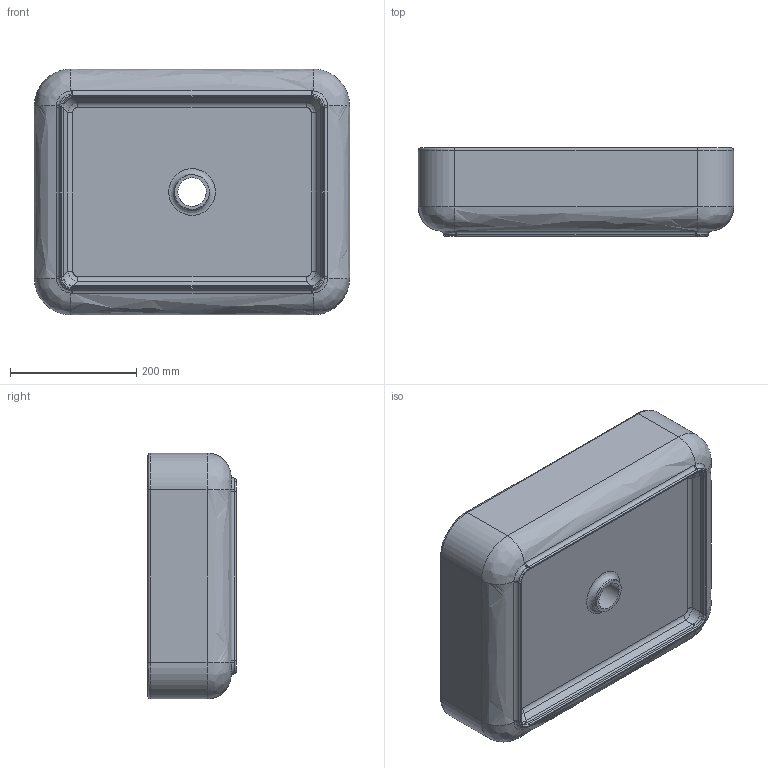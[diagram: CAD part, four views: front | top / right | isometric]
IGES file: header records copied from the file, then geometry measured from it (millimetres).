
Global section: file name: 2e01db17-d493-4702-a7fa-c7c3d8ced35c.zip; native system: unknown; preprocessor: unknown; author: unknown; organization: unknown; date: 20200702.115421; units: millimetre
Bounding box: 500 x 140 x 390 mm (x, y, z)
Volume: 8999761.4 mm3; surface area: 696833.3 mm2
Topology: 1 solids, 1 shells, 139 faces, 321 edges, 187 vertices
Faces by surface type: bspline 139
